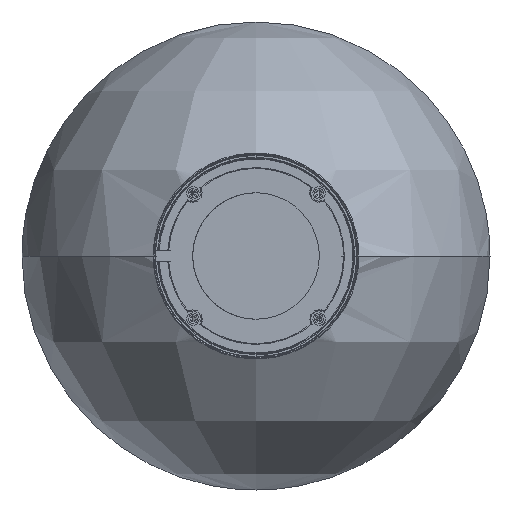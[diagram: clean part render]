
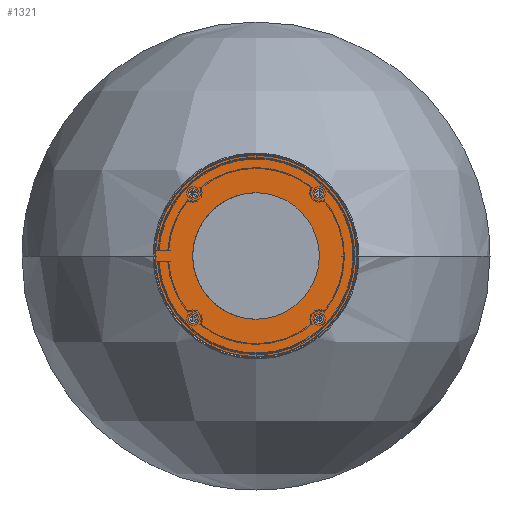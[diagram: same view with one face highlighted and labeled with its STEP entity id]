
A CAD part, front view. The second image highlights one B-rep face of the part: STEP entity #1321.
In plain terms, the highlighted planar face has unit normal (0, -1, 0).
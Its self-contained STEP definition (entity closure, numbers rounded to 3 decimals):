
#739=FACE_BOUND('',#3277,.T.);
#740=FACE_BOUND('',#3278,.T.);
#741=FACE_BOUND('',#3279,.T.);
#742=FACE_BOUND('',#3280,.T.);
#743=FACE_BOUND('',#3281,.T.);
#1321=ADVANCED_FACE('',(#2277,#739,#740,#741,#742,#743),#14729,.T.);
#2277=FACE_OUTER_BOUND('',#3276,.T.);
#3276=EDGE_LOOP('',(#6426,#6427));
#3277=EDGE_LOOP('',(#6428,#6429));
#3278=EDGE_LOOP('',(#6430,#6431));
#3279=EDGE_LOOP('',(#6432,#6433));
#3280=EDGE_LOOP('',(#6434,#6435));
#3281=EDGE_LOOP('',(#6436,#6437));
#6426=ORIENTED_EDGE('',*,*,#9747,.F.);
#6427=ORIENTED_EDGE('',*,*,#9750,.F.);
#6428=ORIENTED_EDGE('',*,*,#9743,.T.);
#6429=ORIENTED_EDGE('',*,*,#9752,.F.);
#6430=ORIENTED_EDGE('',*,*,#9739,.T.);
#6431=ORIENTED_EDGE('',*,*,#9754,.F.);
#6432=ORIENTED_EDGE('',*,*,#9735,.T.);
#6433=ORIENTED_EDGE('',*,*,#9756,.F.);
#6434=ORIENTED_EDGE('',*,*,#9731,.T.);
#6435=ORIENTED_EDGE('',*,*,#9758,.F.);
#6436=ORIENTED_EDGE('',*,*,#9727,.T.);
#6437=ORIENTED_EDGE('',*,*,#9760,.F.);
#9727=EDGE_CURVE('',#13916,#13915,#12773,.T.);
#9731=EDGE_CURVE('',#13920,#13919,#12775,.T.);
#9735=EDGE_CURVE('',#13924,#13923,#12777,.T.);
#9739=EDGE_CURVE('',#13928,#13927,#12779,.T.);
#9743=EDGE_CURVE('',#13932,#13931,#12781,.T.);
#9747=EDGE_CURVE('',#13935,#13936,#12783,.T.);
#9750=EDGE_CURVE('',#13936,#13935,#12785,.T.);
#9752=EDGE_CURVE('',#13932,#13931,#12787,.T.);
#9754=EDGE_CURVE('',#13928,#13927,#12789,.T.);
#9756=EDGE_CURVE('',#13924,#13923,#12791,.T.);
#9758=EDGE_CURVE('',#13920,#13919,#12793,.T.);
#9760=EDGE_CURVE('',#13916,#13915,#12795,.T.);
#12773=(
BOUNDED_CURVE()
B_SPLINE_CURVE(2,(#51648,#51649,#51650,#51651,#51652),.UNSPECIFIED.,.F.,
 .F.)
B_SPLINE_CURVE_WITH_KNOTS((3,2,3),(-15.708,-7.854,0.),
 .UNSPECIFIED.)
CURVE()
GEOMETRIC_REPRESENTATION_ITEM()
RATIONAL_B_SPLINE_CURVE((1.,0.707,1.,0.707,1.))
REPRESENTATION_ITEM('')
);
#12775=(
BOUNDED_CURVE()
B_SPLINE_CURVE(2,(#51662,#51663,#51664,#51665,#51666),.UNSPECIFIED.,.F.,
 .F.)
B_SPLINE_CURVE_WITH_KNOTS((3,2,3),(-15.708,-7.854,0.),
 .UNSPECIFIED.)
CURVE()
GEOMETRIC_REPRESENTATION_ITEM()
RATIONAL_B_SPLINE_CURVE((1.,0.707,1.,0.707,1.))
REPRESENTATION_ITEM('')
);
#12777=(
BOUNDED_CURVE()
B_SPLINE_CURVE(2,(#51676,#51677,#51678,#51679,#51680),.UNSPECIFIED.,.F.,
 .F.)
B_SPLINE_CURVE_WITH_KNOTS((3,2,3),(-15.708,-7.854,0.),
 .UNSPECIFIED.)
CURVE()
GEOMETRIC_REPRESENTATION_ITEM()
RATIONAL_B_SPLINE_CURVE((1.,0.707,1.,0.707,1.))
REPRESENTATION_ITEM('')
);
#12779=(
BOUNDED_CURVE()
B_SPLINE_CURVE(2,(#51690,#51691,#51692,#51693,#51694),.UNSPECIFIED.,.F.,
 .F.)
B_SPLINE_CURVE_WITH_KNOTS((3,2,3),(-15.708,-7.854,0.),
 .UNSPECIFIED.)
CURVE()
GEOMETRIC_REPRESENTATION_ITEM()
RATIONAL_B_SPLINE_CURVE((1.,0.707,1.,0.707,1.))
REPRESENTATION_ITEM('')
);
#12781=(
BOUNDED_CURVE()
B_SPLINE_CURVE(2,(#51704,#51705,#51706,#51707,#51708),.UNSPECIFIED.,.F.,
 .F.)
B_SPLINE_CURVE_WITH_KNOTS((3,2,3),(-212.058,-106.029,
0.),.UNSPECIFIED.)
CURVE()
GEOMETRIC_REPRESENTATION_ITEM()
RATIONAL_B_SPLINE_CURVE((1.,0.707,1.,0.707,1.))
REPRESENTATION_ITEM('')
);
#12783=(
BOUNDED_CURVE()
B_SPLINE_CURVE(2,(#51718,#51719,#51720,#51721,#51722),.UNSPECIFIED.,.F.,
 .F.)
B_SPLINE_CURVE_WITH_KNOTS((3,2,3),(0.,168.861,337.721),
 .UNSPECIFIED.)
CURVE()
GEOMETRIC_REPRESENTATION_ITEM()
RATIONAL_B_SPLINE_CURVE((1.,0.707,1.,0.707,1.))
REPRESENTATION_ITEM('')
);
#12785=(
BOUNDED_CURVE()
B_SPLINE_CURVE(2,(#51730,#51731,#51732,#51733,#51734),.UNSPECIFIED.,.F.,
 .F.)
B_SPLINE_CURVE_WITH_KNOTS((3,2,3),(0.,168.861,337.721),
 .UNSPECIFIED.)
CURVE()
GEOMETRIC_REPRESENTATION_ITEM()
RATIONAL_B_SPLINE_CURVE((1.,0.707,1.,0.707,1.))
REPRESENTATION_ITEM('')
);
#12787=(
BOUNDED_CURVE()
B_SPLINE_CURVE(2,(#51740,#51741,#51742,#51743,#51744),.UNSPECIFIED.,.F.,
 .F.)
B_SPLINE_CURVE_WITH_KNOTS((3,2,3),(0.,106.029,212.058),
 .UNSPECIFIED.)
CURVE()
GEOMETRIC_REPRESENTATION_ITEM()
RATIONAL_B_SPLINE_CURVE((1.,0.707,1.,0.707,1.))
REPRESENTATION_ITEM('')
);
#12789=(
BOUNDED_CURVE()
B_SPLINE_CURVE(2,(#51750,#51751,#51752,#51753,#51754),.UNSPECIFIED.,.F.,
 .F.)
B_SPLINE_CURVE_WITH_KNOTS((3,2,3),(0.,7.854,15.708),
 .UNSPECIFIED.)
CURVE()
GEOMETRIC_REPRESENTATION_ITEM()
RATIONAL_B_SPLINE_CURVE((1.,0.707,1.,0.707,1.))
REPRESENTATION_ITEM('')
);
#12791=(
BOUNDED_CURVE()
B_SPLINE_CURVE(2,(#51760,#51761,#51762,#51763,#51764),.UNSPECIFIED.,.F.,
 .F.)
B_SPLINE_CURVE_WITH_KNOTS((3,2,3),(0.,7.854,15.708),
 .UNSPECIFIED.)
CURVE()
GEOMETRIC_REPRESENTATION_ITEM()
RATIONAL_B_SPLINE_CURVE((1.,0.707,1.,0.707,1.))
REPRESENTATION_ITEM('')
);
#12793=(
BOUNDED_CURVE()
B_SPLINE_CURVE(2,(#51770,#51771,#51772,#51773,#51774),.UNSPECIFIED.,.F.,
 .F.)
B_SPLINE_CURVE_WITH_KNOTS((3,2,3),(0.,7.854,15.708),
 .UNSPECIFIED.)
CURVE()
GEOMETRIC_REPRESENTATION_ITEM()
RATIONAL_B_SPLINE_CURVE((1.,0.707,1.,0.707,1.))
REPRESENTATION_ITEM('')
);
#12795=(
BOUNDED_CURVE()
B_SPLINE_CURVE(2,(#51780,#51781,#51782,#51783,#51784),.UNSPECIFIED.,.F.,
 .F.)
B_SPLINE_CURVE_WITH_KNOTS((3,2,3),(0.,7.854,15.708),
 .UNSPECIFIED.)
CURVE()
GEOMETRIC_REPRESENTATION_ITEM()
RATIONAL_B_SPLINE_CURVE((1.,0.707,1.,0.707,1.))
REPRESENTATION_ITEM('')
);
#13915=VERTEX_POINT('',#51619);
#13916=VERTEX_POINT('',#51620);
#13919=VERTEX_POINT('',#51623);
#13920=VERTEX_POINT('',#51624);
#13923=VERTEX_POINT('',#51627);
#13924=VERTEX_POINT('',#51628);
#13927=VERTEX_POINT('',#51631);
#13928=VERTEX_POINT('',#51632);
#13931=VERTEX_POINT('',#51635);
#13932=VERTEX_POINT('',#51636);
#13935=VERTEX_POINT('',#51639);
#13936=VERTEX_POINT('',#51640);
#14729=PLANE('',#15618);
#15618=AXIS2_PLACEMENT_3D('',#51508,#16003,$);
#16003=DIRECTION('',(0.,-1.,0.));
#51508=CARTESIAN_POINT('',(-129.,0.,-129.));
#51619=CARTESIAN_POINT('',(67.445,0.,-62.445));
#51620=CARTESIAN_POINT('',(67.445,0.,-72.445));
#51623=CARTESIAN_POINT('',(-67.445,0.,-62.445));
#51624=CARTESIAN_POINT('',(-67.445,0.,-72.445));
#51627=CARTESIAN_POINT('',(67.445,0.,72.445));
#51628=CARTESIAN_POINT('',(67.445,0.,62.445));
#51631=CARTESIAN_POINT('',(-67.445,0.,72.445));
#51632=CARTESIAN_POINT('',(-67.445,0.,62.445));
#51635=CARTESIAN_POINT('',(0.,0.,67.5));
#51636=CARTESIAN_POINT('',(0.,0.,-67.5));
#51639=CARTESIAN_POINT('',(0.,0.,107.5));
#51640=CARTESIAN_POINT('',(0.,0.,-107.5));
#51648=CARTESIAN_POINT('',(67.445,0.,-72.445));
#51649=CARTESIAN_POINT('',(62.445,0.,-72.445));
#51650=CARTESIAN_POINT('',(62.445,0.,-67.445));
#51651=CARTESIAN_POINT('',(62.445,0.,-62.445));
#51652=CARTESIAN_POINT('',(67.445,0.,-62.445));
#51662=CARTESIAN_POINT('',(-67.445,0.,-72.445));
#51663=CARTESIAN_POINT('',(-72.445,0.,-72.445));
#51664=CARTESIAN_POINT('',(-72.445,0.,-67.445));
#51665=CARTESIAN_POINT('',(-72.445,0.,-62.445));
#51666=CARTESIAN_POINT('',(-67.445,0.,-62.445));
#51676=CARTESIAN_POINT('',(67.445,0.,62.445));
#51677=CARTESIAN_POINT('',(62.445,0.,62.445));
#51678=CARTESIAN_POINT('',(62.445,0.,67.445));
#51679=CARTESIAN_POINT('',(62.445,0.,72.445));
#51680=CARTESIAN_POINT('',(67.445,0.,72.445));
#51690=CARTESIAN_POINT('',(-67.445,0.,62.445));
#51691=CARTESIAN_POINT('',(-72.445,0.,62.445));
#51692=CARTESIAN_POINT('',(-72.445,0.,67.445));
#51693=CARTESIAN_POINT('',(-72.445,0.,72.445));
#51694=CARTESIAN_POINT('',(-67.445,0.,72.445));
#51704=CARTESIAN_POINT('',(0.,0.,-67.5));
#51705=CARTESIAN_POINT('',(-67.5,0.,-67.5));
#51706=CARTESIAN_POINT('',(-67.5,0.,0.));
#51707=CARTESIAN_POINT('',(-67.5,0.,67.5));
#51708=CARTESIAN_POINT('',(0.,0.,67.5));
#51718=CARTESIAN_POINT('',(0.,0.,107.5));
#51719=CARTESIAN_POINT('',(107.5,0.,107.5));
#51720=CARTESIAN_POINT('',(107.5,0.,0.));
#51721=CARTESIAN_POINT('',(107.5,0.,-107.5));
#51722=CARTESIAN_POINT('',(0.,0.,-107.5));
#51730=CARTESIAN_POINT('',(0.,0.,-107.5));
#51731=CARTESIAN_POINT('',(-107.5,0.,-107.5));
#51732=CARTESIAN_POINT('',(-107.5,0.,0.));
#51733=CARTESIAN_POINT('',(-107.5,0.,107.5));
#51734=CARTESIAN_POINT('',(0.,0.,107.5));
#51740=CARTESIAN_POINT('',(0.,0.,-67.5));
#51741=CARTESIAN_POINT('',(67.5,0.,-67.5));
#51742=CARTESIAN_POINT('',(67.5,0.,0.));
#51743=CARTESIAN_POINT('',(67.5,0.,67.5));
#51744=CARTESIAN_POINT('',(0.,0.,67.5));
#51750=CARTESIAN_POINT('',(-67.445,0.,62.445));
#51751=CARTESIAN_POINT('',(-62.445,0.,62.445));
#51752=CARTESIAN_POINT('',(-62.445,0.,67.445));
#51753=CARTESIAN_POINT('',(-62.445,0.,72.445));
#51754=CARTESIAN_POINT('',(-67.445,0.,72.445));
#51760=CARTESIAN_POINT('',(67.445,0.,62.445));
#51761=CARTESIAN_POINT('',(72.445,0.,62.445));
#51762=CARTESIAN_POINT('',(72.445,0.,67.445));
#51763=CARTESIAN_POINT('',(72.445,0.,72.445));
#51764=CARTESIAN_POINT('',(67.445,0.,72.445));
#51770=CARTESIAN_POINT('',(-67.445,0.,-72.445));
#51771=CARTESIAN_POINT('',(-62.445,0.,-72.445));
#51772=CARTESIAN_POINT('',(-62.445,0.,-67.445));
#51773=CARTESIAN_POINT('',(-62.445,0.,-62.445));
#51774=CARTESIAN_POINT('',(-67.445,0.,-62.445));
#51780=CARTESIAN_POINT('',(67.445,0.,-72.445));
#51781=CARTESIAN_POINT('',(72.445,0.,-72.445));
#51782=CARTESIAN_POINT('',(72.445,0.,-67.445));
#51783=CARTESIAN_POINT('',(72.445,0.,-62.445));
#51784=CARTESIAN_POINT('',(67.445,0.,-62.445));
